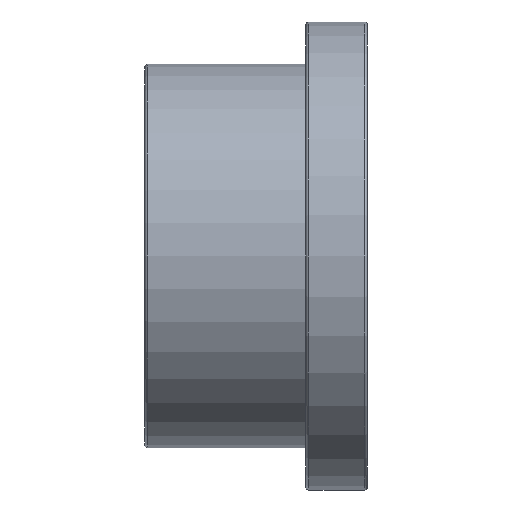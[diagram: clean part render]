
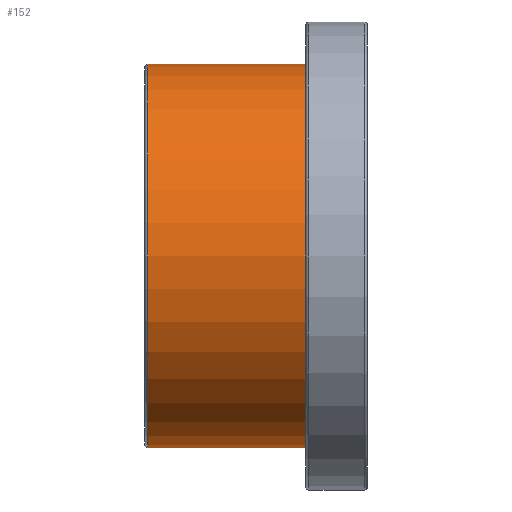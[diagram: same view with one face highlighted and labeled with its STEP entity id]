
A CAD part, front view. The second image highlights one B-rep face of the part: STEP entity #152.
In plain terms, the highlighted cylindrical face has radius 25 mm (diameter 50 mm), a full revolution.
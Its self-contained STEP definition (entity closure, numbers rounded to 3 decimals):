
#21=CYLINDRICAL_SURFACE('',#176,25.);
#30=FACE_BOUND('',#64,.T.);
#43=FACE_OUTER_BOUND('',#63,.T.);
#63=EDGE_LOOP('',(#128));
#64=EDGE_LOOP('',(#129));
#78=CIRCLE('',#166,25.);
#83=CIRCLE('',#175,25.);
#91=VERTEX_POINT('',#250);
#96=VERTEX_POINT('',#264);
#104=EDGE_CURVE('',#91,#91,#78,.T.);
#109=EDGE_CURVE('',#96,#96,#83,.T.);
#128=ORIENTED_EDGE('',*,*,#104,.T.);
#129=ORIENTED_EDGE('',*,*,#109,.F.);
#152=ADVANCED_FACE('',(#43,#30),#21,.T.);
#166=AXIS2_PLACEMENT_3D('',#251,#200,#201);
#175=AXIS2_PLACEMENT_3D('',#265,#218,#219);
#176=AXIS2_PLACEMENT_3D('',#266,#220,#221);
#200=DIRECTION('center_axis',(-1.,0.,0.));
#201=DIRECTION('ref_axis',(0.,0.,1.));
#218=DIRECTION('center_axis',(-1.,0.,0.));
#219=DIRECTION('ref_axis',(0.,1.,0.));
#220=DIRECTION('center_axis',(-1.,0.,0.));
#221=DIRECTION('ref_axis',(0.,-1.,0.));
#250=CARTESIAN_POINT('',(21.,-25.,0.));
#251=CARTESIAN_POINT('Origin',(21.,0.,0.));
#264=CARTESIAN_POINT('',(0.4,-25.,0.));
#265=CARTESIAN_POINT('Origin',(0.4,0.,0.));
#266=CARTESIAN_POINT('Origin',(10.5,0.,0.));
